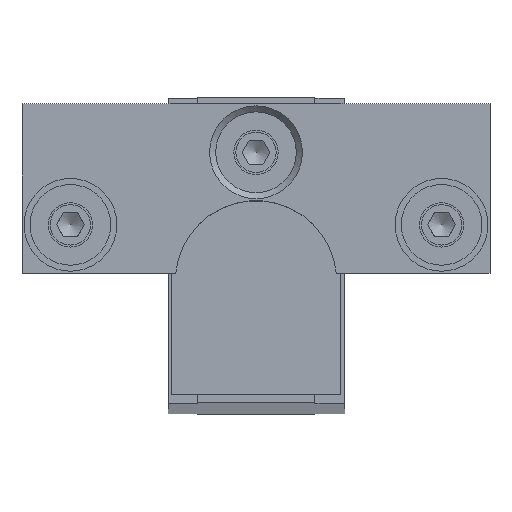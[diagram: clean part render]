
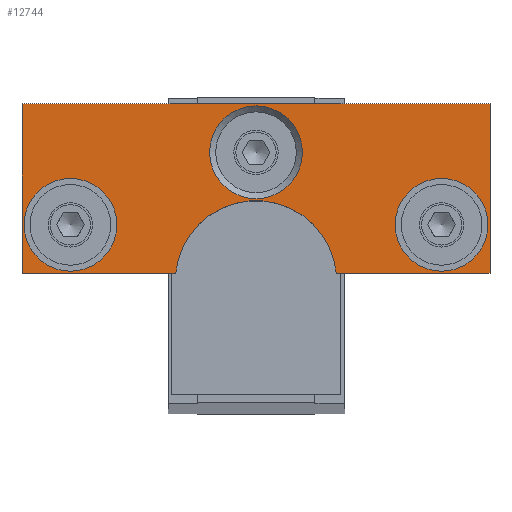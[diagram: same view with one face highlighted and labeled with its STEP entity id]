
A CAD part, top view. The second image highlights one B-rep face of the part: STEP entity #12744.
In plain terms, the highlighted planar face has unit normal (0, 0, 1).
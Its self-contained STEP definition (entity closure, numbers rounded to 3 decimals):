
#310=FACE_BOUND('',#2907,.T.);
#311=FACE_BOUND('',#2908,.T.);
#312=FACE_BOUND('',#2909,.T.);
#513=PLANE('',#13589);
#887=LINE('',#19917,#1394);
#888=LINE('',#19919,#1395);
#889=LINE('',#19921,#1396);
#890=LINE('',#19925,#1397);
#891=LINE('',#19926,#1398);
#1394=VECTOR('',#15606,10.);
#1395=VECTOR('',#15607,10.);
#1396=VECTOR('',#15608,10.);
#1397=VECTOR('',#15611,10.);
#1398=VECTOR('',#15612,10.);
#2191=FACE_OUTER_BOUND('',#2906,.T.);
#2906=EDGE_LOOP('',(#8378,#8379,#8380,#8381,#8382,#8383));
#2907=EDGE_LOOP('',(#8384));
#2908=EDGE_LOOP('',(#8385));
#2909=EDGE_LOOP('',(#8386));
#3805=CIRCLE('',#13587,5.75);
#3807=CIRCLE('',#13590,10.);
#3808=CIRCLE('',#13591,5.75);
#3809=CIRCLE('',#13592,5.75);
#5005=VERTEX_POINT('',#19909);
#5007=VERTEX_POINT('',#19915);
#5008=VERTEX_POINT('',#19916);
#5009=VERTEX_POINT('',#19918);
#5010=VERTEX_POINT('',#19920);
#5011=VERTEX_POINT('',#19922);
#5012=VERTEX_POINT('',#19924);
#5013=VERTEX_POINT('',#19927);
#5014=VERTEX_POINT('',#19929);
#6420=EDGE_CURVE('',#5005,#5005,#3805,.T.);
#6423=EDGE_CURVE('',#5007,#5008,#887,.T.);
#6424=EDGE_CURVE('',#5008,#5009,#888,.T.);
#6425=EDGE_CURVE('',#5009,#5010,#889,.T.);
#6426=EDGE_CURVE('',#5010,#5011,#3807,.T.);
#6427=EDGE_CURVE('',#5011,#5012,#890,.T.);
#6428=EDGE_CURVE('',#5012,#5007,#891,.T.);
#6429=EDGE_CURVE('',#5013,#5013,#3808,.T.);
#6430=EDGE_CURVE('',#5014,#5014,#3809,.T.);
#8378=ORIENTED_EDGE('',*,*,#6423,.T.);
#8379=ORIENTED_EDGE('',*,*,#6424,.T.);
#8380=ORIENTED_EDGE('',*,*,#6425,.T.);
#8381=ORIENTED_EDGE('',*,*,#6426,.T.);
#8382=ORIENTED_EDGE('',*,*,#6427,.T.);
#8383=ORIENTED_EDGE('',*,*,#6428,.T.);
#8384=ORIENTED_EDGE('',*,*,#6429,.F.);
#8385=ORIENTED_EDGE('',*,*,#6430,.F.);
#8386=ORIENTED_EDGE('',*,*,#6420,.F.);
#12744=ADVANCED_FACE('',(#2191,#310,#311,#312),#513,.T.);
#13587=AXIS2_PLACEMENT_3D('',#19910,#15599,#15600);
#13589=AXIS2_PLACEMENT_3D('',#19914,#15604,#15605);
#13590=AXIS2_PLACEMENT_3D('',#19923,#15609,#15610);
#13591=AXIS2_PLACEMENT_3D('',#19928,#15613,#15614);
#13592=AXIS2_PLACEMENT_3D('',#19930,#15615,#15616);
#15599=DIRECTION('center_axis',(0.,0.,
1.));
#15600=DIRECTION('ref_axis',(-1.,0.,0.));
#15604=DIRECTION('center_axis',(0.,0.,
1.));
#15605=DIRECTION('ref_axis',(1.,0.,0.));
#15606=DIRECTION('',(-1.,0.,0.));
#15607=DIRECTION('',(0.,-1.,0.));
#15608=DIRECTION('',(1.,0.,0.));
#15609=DIRECTION('center_axis',(0.,0.,
-1.));
#15610=DIRECTION('ref_axis',(0.995,0.1,0.));
#15611=DIRECTION('',(1.,0.,0.));
#15612=DIRECTION('',(0.,1.,0.));
#15613=DIRECTION('center_axis',(0.,0.,
1.));
#15614=DIRECTION('ref_axis',(-1.,0.,0.));
#15615=DIRECTION('center_axis',(0.,0.,
1.));
#15616=DIRECTION('ref_axis',(-1.,0.,0.));
#19909=CARTESIAN_POINT('',(39.65,22.,436.));
#19910=CARTESIAN_POINT('Origin',(33.9,22.,436.));
#19914=CARTESIAN_POINT('Origin',(10.9,27.153,436.));
#19915=CARTESIAN_POINT('',(39.9,37.,436.));
#19916=CARTESIAN_POINT('',(-18.1,37.,436.));
#19917=CARTESIAN_POINT('',(-18.1,37.,436.));
#19918=CARTESIAN_POINT('',(-18.1,16.,436.));
#19919=CARTESIAN_POINT('',(-18.1,16.,436.));
#19920=CARTESIAN_POINT('',(0.95,16.,436.));
#19921=CARTESIAN_POINT('',(0.95,16.,436.));
#19922=CARTESIAN_POINT('',(20.85,16.,436.));
#19923=CARTESIAN_POINT('Origin',(10.9,15.,436.));
#19924=CARTESIAN_POINT('',(39.9,16.,436.));
#19925=CARTESIAN_POINT('',(39.9,16.,436.));
#19926=CARTESIAN_POINT('',(39.9,37.,436.));
#19927=CARTESIAN_POINT('',(16.65,31.,436.));
#19928=CARTESIAN_POINT('Origin',(10.9,31.,436.));
#19929=CARTESIAN_POINT('',(-6.35,22.,436.));
#19930=CARTESIAN_POINT('Origin',(-12.1,22.,436.));
